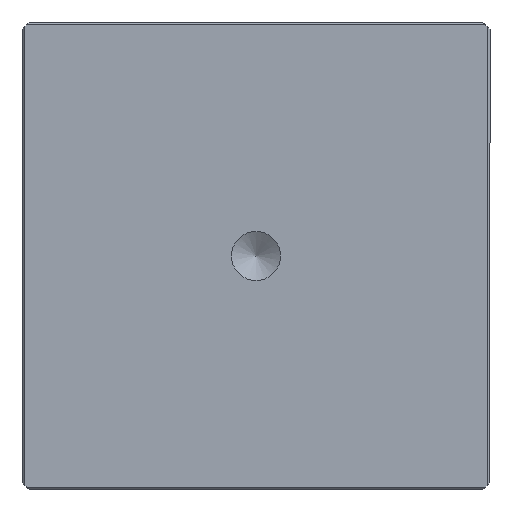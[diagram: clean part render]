
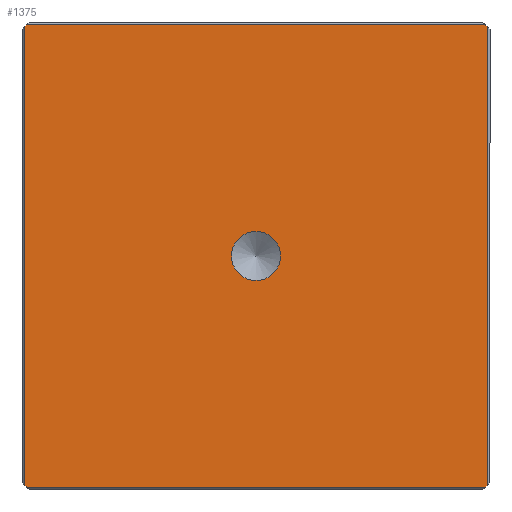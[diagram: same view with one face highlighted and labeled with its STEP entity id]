
A CAD part, front view. The second image highlights one B-rep face of the part: STEP entity #1375.
In plain terms, the highlighted planar face has unit normal (0, -1, 0).
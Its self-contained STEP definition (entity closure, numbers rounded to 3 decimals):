
#3 = CIRCLE ( 'NONE', #970, 1.65 ) ;
#8 = VECTOR ( 'NONE', #1034, 1000. ) ;
#17 = VERTEX_POINT ( 'NONE', #1314 ) ;
#29 = VECTOR ( 'NONE', #209, 1000. ) ;
#34 = ORIENTED_EDGE ( 'NONE', *, *, #1467, .T. ) ;
#36 = EDGE_CURVE ( 'NONE', #179, #179, #3, .T. ) ;
#37 = VERTEX_POINT ( 'NONE', #386 ) ;
#74 = CARTESIAN_POINT ( 'NONE',  ( 15.45, 0., -15.55 ) ) ;
#80 = DIRECTION ( 'NONE',  ( -0.707, 0., 0.707 ) ) ;
#90 = CARTESIAN_POINT ( 'NONE',  ( 0., 0., -1.65 ) ) ;
#142 = CARTESIAN_POINT ( 'NONE',  ( 0., 0., -15.55 ) ) ;
#167 = EDGE_CURVE ( 'NONE', #704, #1388, #254, .T. ) ;
#172 = PLANE ( 'NONE',  #253 ) ;
#179 = VERTEX_POINT ( 'NONE', #90 ) ;
#209 = DIRECTION ( 'NONE',  ( 0., 0., 1. ) ) ;
#211 = ORIENTED_EDGE ( 'NONE', *, *, #36, .F. ) ;
#219 = ORIENTED_EDGE ( 'NONE', *, *, #1349, .T. ) ;
#226 = LINE ( 'NONE', #1496, #8 ) ;
#245 = CARTESIAN_POINT ( 'NONE',  ( -15.55, 0., -15.45 ) ) ;
#253 = AXIS2_PLACEMENT_3D ( 'NONE', #1414, #495, #835 ) ;
#254 = LINE ( 'NONE', #142, #996 ) ;
#278 = EDGE_CURVE ( 'NONE', #1140, #17, #1004, .T. ) ;
#307 = CARTESIAN_POINT ( 'NONE',  ( 15.55, 0., 15.45 ) ) ;
#320 = LINE ( 'NONE', #880, #1147 ) ;
#355 = VECTOR ( 'NONE', #969, 1000. ) ;
#386 = CARTESIAN_POINT ( 'NONE',  ( 15.55, 0., -15.45 ) ) ;
#427 = CARTESIAN_POINT ( 'NONE',  ( -15.45, 0., 15.55 ) ) ;
#454 = CARTESIAN_POINT ( 'NONE',  ( -15.55, 0., 15.45 ) ) ;
#456 = CARTESIAN_POINT ( 'NONE',  ( -15.55, 0., 0. ) ) ;
#495 = DIRECTION ( 'NONE',  ( 0., 1., 0. ) ) ;
#505 = ORIENTED_EDGE ( 'NONE', *, *, #810, .T. ) ;
#509 = LINE ( 'NONE', #816, #355 ) ;
#575 = LINE ( 'NONE', #456, #850 ) ;
#584 = VECTOR ( 'NONE', #80, 1000. ) ;
#594 = DIRECTION ( 'NONE',  ( 1., 0., 0. ) ) ;
#603 = ORIENTED_EDGE ( 'NONE', *, *, #886, .T. ) ;
#612 = VERTEX_POINT ( 'NONE', #427 ) ;
#617 = FACE_OUTER_BOUND ( 'NONE', #848, .T. ) ;
#671 = EDGE_CURVE ( 'NONE', #37, #1140, #884, .T. ) ;
#704 = VERTEX_POINT ( 'NONE', #769 ) ;
#769 = CARTESIAN_POINT ( 'NONE',  ( -15.45, 0., -15.55 ) ) ;
#772 = DIRECTION ( 'NONE',  ( 0.707, 0., -0.707 ) ) ;
#810 = EDGE_CURVE ( 'NONE', #17, #612, #226, .T. ) ;
#816 = CARTESIAN_POINT ( 'NONE',  ( 15.25, 0., -15.75 ) ) ;
#828 = DIRECTION ( 'NONE',  ( 0., -1., 0. ) ) ;
#835 = DIRECTION ( 'NONE',  ( 0., 0., 1. ) ) ;
#848 = EDGE_LOOP ( 'NONE', ( #1079, #505, #1028, #603, #34, #1087, #219, #1402 ) ) ;
#850 = VECTOR ( 'NONE', #918, 1000. ) ;
#880 = CARTESIAN_POINT ( 'NONE',  ( -15.75, 0., -15.25 ) ) ;
#884 = LINE ( 'NONE', #908, #29 ) ;
#886 = EDGE_CURVE ( 'NONE', #1275, #1233, #575, .T. ) ;
#908 = CARTESIAN_POINT ( 'NONE',  ( 15.55, 0., 0. ) ) ;
#918 = DIRECTION ( 'NONE',  ( 0., 0., -1. ) ) ;
#947 = CARTESIAN_POINT ( 'NONE',  ( 0., 0., 0. ) ) ;
#954 = LINE ( 'NONE', #1421, #1461 ) ;
#969 = DIRECTION ( 'NONE',  ( 0.707, 0., 0.707 ) ) ;
#970 = AXIS2_PLACEMENT_3D ( 'NONE', #947, #828, #1306 ) ;
#979 = CARTESIAN_POINT ( 'NONE',  ( 15.75, 0., 15.25 ) ) ;
#996 = VECTOR ( 'NONE', #594, 1000. ) ;
#1004 = LINE ( 'NONE', #979, #584 ) ;
#1028 = ORIENTED_EDGE ( 'NONE', *, *, #1322, .T. ) ;
#1034 = DIRECTION ( 'NONE',  ( -1., 0., 0. ) ) ;
#1040 = EDGE_LOOP ( 'NONE', ( #211 ) ) ;
#1079 = ORIENTED_EDGE ( 'NONE', *, *, #278, .T. ) ;
#1087 = ORIENTED_EDGE ( 'NONE', *, *, #167, .T. ) ;
#1140 = VERTEX_POINT ( 'NONE', #307 ) ;
#1147 = VECTOR ( 'NONE', #772, 1000. ) ;
#1213 = FACE_BOUND ( 'NONE', #1040, .T. ) ;
#1233 = VERTEX_POINT ( 'NONE', #245 ) ;
#1275 = VERTEX_POINT ( 'NONE', #454 ) ;
#1306 = DIRECTION ( 'NONE',  ( 0., 0., -1. ) ) ;
#1314 = CARTESIAN_POINT ( 'NONE',  ( 15.45, 0., 15.55 ) ) ;
#1321 = DIRECTION ( 'NONE',  ( -0.707, 0., -0.707 ) ) ;
#1322 = EDGE_CURVE ( 'NONE', #612, #1275, #954, .T. ) ;
#1349 = EDGE_CURVE ( 'NONE', #1388, #37, #509, .T. ) ;
#1375 = ADVANCED_FACE ( 'NONE', ( #1213, #617 ), #172, .F. ) ;
#1388 = VERTEX_POINT ( 'NONE', #74 ) ;
#1402 = ORIENTED_EDGE ( 'NONE', *, *, #671, .T. ) ;
#1414 = CARTESIAN_POINT ( 'NONE',  ( 0., 0., 0. ) ) ;
#1421 = CARTESIAN_POINT ( 'NONE',  ( -15.25, 0., 15.75 ) ) ;
#1461 = VECTOR ( 'NONE', #1321, 1000. ) ;
#1467 = EDGE_CURVE ( 'NONE', #1233, #704, #320, .T. ) ;
#1496 = CARTESIAN_POINT ( 'NONE',  ( 0., 0., 15.55 ) ) ;
